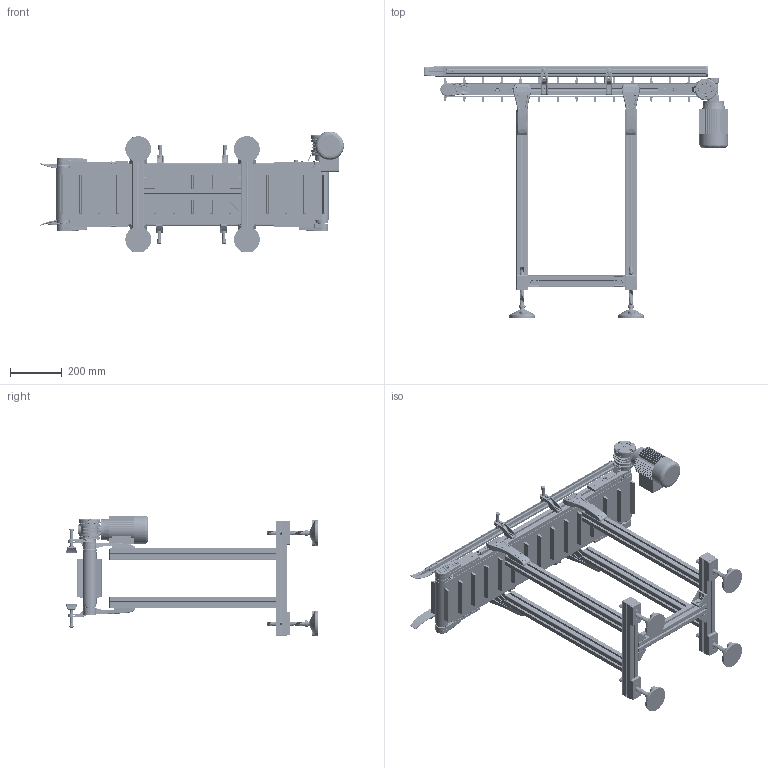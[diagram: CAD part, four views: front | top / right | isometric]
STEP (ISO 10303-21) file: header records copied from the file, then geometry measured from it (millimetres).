
FILE_DESCRIPTION (( 'STEP AP214' ), '1' );
FILE_NAME ('NASTRO_RETTILINEO_TAPPETO.step', '2026-05-07T15:50:15', ( '' ), ( '' ), 'SwSTEP 2.0', 'SolidWorks 2024', '' );
FILE_SCHEMA (( 'AUTOMOTIVE_DESIGN' ));
Length unit declared in the file: millimetre
Products named in the file (74): 084.802.065_Default<A macchina>; VITE_RONDELLA_M8X20; DADI ESAGONALI NORMALI UNI 5588_M6 UNI 5588; BLOCCO_BRACCIO_CH03P_VF30P; 084.711.005; RULLO_50_Default<A macchina>; 084.712.002; VITI TSEI UNI 5933 INOX_0412UNI5933A2; TELAIO_50_STANDARD_Default<A macchina>; RONDELLE FASCIA LARGA UNI 6593_5.4x20 UNI 6593; 084.302.000 DADI ALUSIC 13x13-1_084.302.007; 084.802.062; 084.802.017_084.802.017; 084.302.000 DADI ALUSIC 13x13-1_084.302.009; TRAVERSA_50_Default<A macchina>; 084.301.000 VITI ALUSIC_084.301.003; 084.405.001; 084.811.001; CH03P_DX; 084.711.010; ANGOLARE_43; GAMBE_D50_Default<A macchina>; 084.808.012; 084.301.000 VITI ALUSIC_084.301.009; 084.303.001; 084.802.071; 084.712.005; NASTRO_RETTILINEO_TAPPETO; 14UNI7435; PIEDE; BLOCCO_TRAINO_50_STANDARD_30_DX; 084.802.008; VITI TSEI UNI 5933_M4x12 UNI 5933; 2010.000.070; 084.711.006_L1; VITI TCEI UNI 5931_M4x25 UNI 5931; 084.402.005; 084.803.018; 084.201.012; 084.305.003-1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
Assembly tree (166 placements, depth 4):
  NASTRO_RETTILINEO_TAPPETO
    TAPPETO_STANDARD
    TELAIO_50_STANDARD_Default<A macchina>
    LAMIERA_STANDARD
    RULLO_50_Default<A macchina>  x2
    BLOCCO_PERNO_50_30
      084.810.001
      084.811.001
      RONDELLE FASCIA LARGA UNI 6593_5.4x20 UNI 6593
      084.301.000 VITI ALUSIC_084.301.009
      CHIAVETTE_A 5x5x40 UNI 6604-69
      CHIAVETTE_A 5x5x20 UNI 6604-69
      14UNI7435
    BLOCCO_TRAINO_50_STANDARD_30_DX
      084.807.003_084.807.003<A macchina>
      084.802.017_084.802.017
      084.301.000 VITI ALUSIC_084.301.003  x2
      084.302.000 DADI ALUSIC 13x13-1_084.302.004  x2
      BLOCCO_BRACCIO_CH03P_VF30P
        084.808.012
        084.802.062
        084.802.061
        VITI TE UNI 5739_M6x16 UNI 5739  x4
        084.803.018
        VITI TCEI UNI 5931_M6x12 UNI 5931  x4
      084.802.065_Default<A macchina>
      VITI TCEI UNI 5931_M4x25 UNI 5931  x2
    BLOCCO_PERNO_50_RINVIO  x3
      084.811.004
      084.810.001
    BLOCCO_TRAINO_50_STANDARD
      084.807.002_084.807.002
      084.802.017_084.802.017
      084.301.000 VITI ALUSIC_084.301.003  x2
      084.302.000 DADI ALUSIC 13x13-1_084.302.004  x2
      VITI TSEI UNI 5933_M4x12 UNI 5933  x4
      084.802.071
      VITI TSEI UNI 5933 INOX_0412UNI5933A2  x2
    BLOCCO_RINVIO_50_STANDARD  x2
      084.807.002_084.807.002
      084.802.017_084.802.017
      084.802.008
      084.301.000 VITI ALUSIC_084.301.003
      084.302.000 DADI ALUSIC 13x13_084.302.004
      VITI TSEI UNI 5933_M4x10 UNI 5933
      084.802.071
    SPONDA_Default<A macchina>  x2
    084.711.006_PER CAVA 8 PERNO ALTO 1  x4
      084.711.006_L1
      084.711.006_L2
      084.711.007
      084.711.005
      084.711.010
      DADI ESAGONALI NORMALI UNI 5588_M6 UNI 5588
    084.712.005  x2
      084.712.005
      DADI ESAGONALI NORMALI UNI 5588_M6 UNI 5588
      GRANI A PUNTA CONICA UNI 5927_M6x16 UNI 5927
    084.712.002  x2
    GAMBE_D50_Default<A macchina>  x2
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Bounding box: 1174.48 x 972.1 x 467.94 mm (x, y, z)
Volume: 10673372 mm3; surface area: 6851813.2 mm2
Topology: 311 solids, 317 shells, 16121 faces, 41689 edges, 26414 vertices
Faces by surface type: plane 6605, cylinder 5054, bspline 1778, cone 1387, torus 1115, sphere 182
Entity records: 243071 total; most frequent: CARTESIAN_POINT 85732, ORIENTED_EDGE 33922, DIRECTION 30457, EDGE_CURVE 16961, VERTEX_POINT 10866, AXIS2_PLACEMENT_3D 10572, LINE 9313, VECTOR 9313
